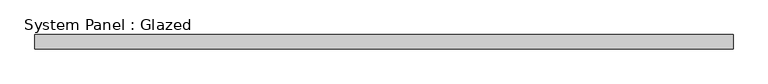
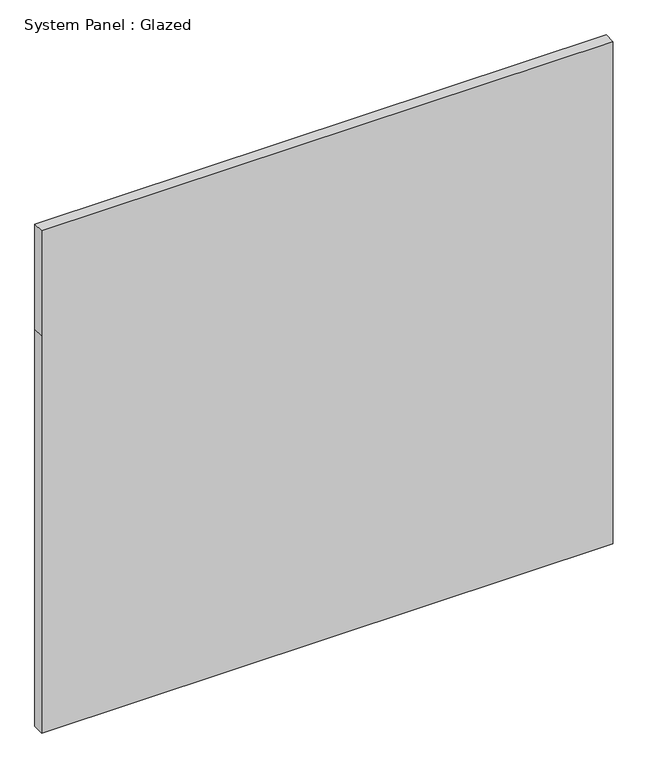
"""IFC4 building model written with IfcOpenShell, lengths in millimetres: plate geometry, System Panel : Glazed."""

from ifc_helpers import new_model, si_unit, frame, origin, place, context, project, spatial, polyline, outline, extrude, source, transform, mapped, element, save


def system_panel_glazed_ea10912d(model_context):
    return source(origin(), model_context, "Body", "SweptSolid", [
        extrude(outline(polyline([(0.0, -622.3), (0.0, 622.3), (914.4, 622.3), (1155.7, 622.3), (1155.7, -622.3), (914.4, -622.3), (0.0, -622.3)])), frame((0.0, 19.05, 0.0), z_axis=(0.0, 1.0, 0.0), x_axis=(0.0, 0.0, 1.0)), (0.0, 0.0, 1.0), 25.4),
    ])


if __name__ == "__main__":
    model = new_model("IFC4")
    model_context = context("Model", 3, world=origin())
    ifc_project = project(units=[si_unit("LENGTHUNIT", "METRE", prefix="MILLI")], contexts=[model_context])
    site = spatial("IfcSite", under=ifc_project)
    building = spatial("IfcBuilding", under=site)
    placement = place(None, origin())
    system_panel_glazed_shape = system_panel_glazed_ea10912d(model_context)
    element("IfcPlate", 1, ObjectType="System Panel : Glazed", at=placement, inside=building, context=model_context, shape_type="MappedRepresentation", body=[
        mapped(system_panel_glazed_shape, transform((0.0, 0.0, 0.0), x_axis=(1.0, 0.0, 0.0), y_axis=(0.0, 1.0, 0.0), z_axis=(0.0, 0.0, 1.0))),
    ])
    save(model, "model.ifc")
